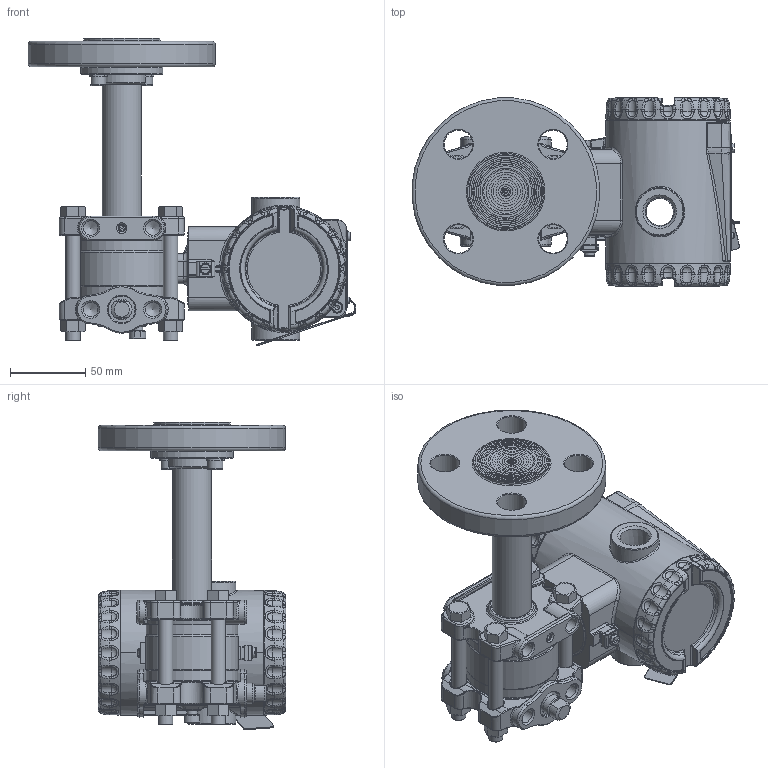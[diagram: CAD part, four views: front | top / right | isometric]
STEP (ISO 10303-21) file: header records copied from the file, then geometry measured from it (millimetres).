
FILE_DESCRIPTION(/* description */ (''),/* implementation_level */ '2;1');
FILE_NAME(/* name */ 'F:\Area\Desenvolvimento_2\Projects\Sensor\projetos\LD400-3d\dimensionais 3D clientes\LD400L\LD400L 1-300 RF ref 1-4NPT purga acima.stp',/* time_stamp */ '2023-02-23T15:14:25-03:00',/* author */ ('inventor02'),/* organization */ (''),/* preprocessor_version */ 'ST-DEVELOPER v17',/* originating_system */ 'Autodesk Inventor 2019',/* authorisation */ '');
FILE_SCHEMA (('CONFIG_CONTROL_DESIGN'));
Products named in the file (37): LD30XL 1-300 RF ref 1-4NPT purga acima; 204-0301-L-1 300 RF purga acima; nivel fx3 com baixa diferencial 1-4NPT purga acima; involucro fx0-3 apos a usinagem final; flange diferencial std purga; 101-C-7484-01 flange selo nivel VR; 201-A-0504-tubo união teste 1; bujao 1-4NPT; Sangria; Porca 3-8 x 16 UNC; Paraf. 3-8 x 16 UNC; adaptação tubo x flange 1pol DN25; 101-B-anel fixação tubo 1pol; ANSI B18.3.1M - M6x1 x 12; DIN 127 - A 6; 101-C-0523-10 flange corrug 1 300 RF; Carcaça 400 com tampas e plaqueta sem letras; 101-D-0845-05 carcaça LD400 sem letras; 101-B-3614-03-tampa 400 sem letras; Tampa visor 400 montada sem letras; 101-B-3612-05 tampa visor 400 sem letras; 101-A-6107; oring 2034; 00034775-0; WHW_250; DIN 915 - M6 x 10; Chapa aterramento externo; 201-A-1771-02 inserto terra recartilhado; AS 1969 - ST4,2; ISO 1207 - M4 x 8; ANSI B18.3.1M - M4x0,7 x 8; Subconjunto plaqueta 400; plaqueta 400 em branco; Parafuso da Plaqueta; Rebite da Plaqueta; 096-A-0169-03; 101-A-0502-01
Assembly tree (46 placements, depth 4):
  LD30XL 1-300 RF ref 1-4NPT purga acima
    204-0301-L-1 300 RF purga acima
      nivel fx3 com baixa diferencial 1-4NPT purga acima
        involucro fx0-3 apos a usinagem final
        flange diferencial std purga
        101-C-7484-01 flange selo nivel VR
        201-A-0504-tubo união teste 1
        DIN 915 - M6 x 10
        bujao 1-4NPT
        Sangria
        Porca 3-8 x 16 UNC  x4
        Paraf. 3-8 x 16 UNC  x4
      adaptação tubo x flange 1pol DN25
        101-B-anel fixação tubo 1pol
        ANSI B18.3.1M - M6x1 x 12  x2
        DIN 127 - A 6  x2
      101-C-0523-10 flange corrug 1 300 RF
    Carcaça 400 com tampas e plaqueta sem letras
      101-D-0845-05 carcaça LD400 sem letras
      101-B-3614-03-tampa 400 sem letras
      Tampa visor 400 montada sem letras
        101-B-3612-05 tampa visor 400 sem letras
        101-A-6107
        oring 2034
        00034775-0
        WHW_250
      DIN 915 - M6 x 10
      Chapa aterramento externo
      201-A-1771-02 inserto terra recartilhado
      AS 1969 - ST4,2
      ISO 1207 - M4 x 8
      ANSI B18.3.1M - M4x0,7 x 8  x2
      Subconjunto plaqueta 400
        plaqueta 400 em branco
        Parafuso da Plaqueta
        Rebite da Plaqueta
        096-A-0169-03
        101-A-0502-01
Bounding box: 218.01 x 125 x 204.42 mm (x, y, z)
Volume: 817740.3 mm3; surface area: 286707.3 mm2
Topology: 40 solids, 40 shells, 2688 faces, 6532 edges, 3902 vertices
Faces by surface type: plane 693, cylinder 649, bspline 604, torus 449, cone 217, sphere 76
Full cylindrical faces by diameter (mm): 2 x4, 2.1 x1, 2.2 x1, 2.459 x3, 2.5 x1, 2.7 x1, 2.8 x1, 3 x4, 3.242 x3, 3.5 x1, 3.571 x1, 4 x5, 4.3 x2, 4.4 x1, 4.917 x4, 5.5 x3, 6 x6, 6.1 x2, 6.2 x1, 6.5 x2, 6.647 x1, 7 x3, 7.6 x2, 7.798 x4, 8 x1, 9.525 x4, 9.728 x6, 10 x2, 10.5 x8, 10.719 x2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
Entity records: 96175 total; most frequent: CARTESIAN_POINT 36669, ORIENTED_EDGE 12306, DIRECTION 12211, EDGE_CURVE 6153, AXIS2_PLACEMENT_3D 5211, VERTEX_POINT 3708, CIRCLE 3018, EDGE_LOOP 2699
